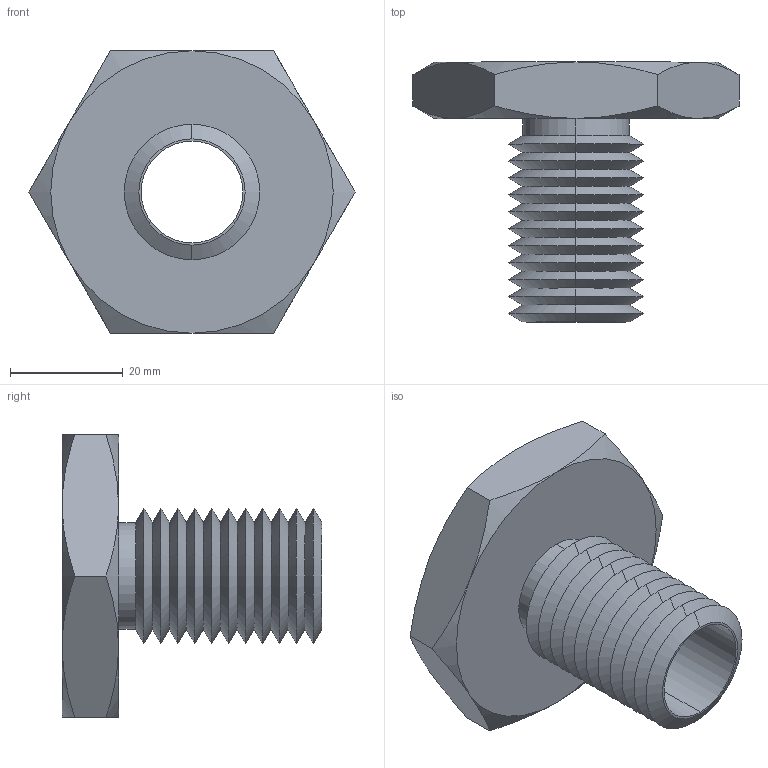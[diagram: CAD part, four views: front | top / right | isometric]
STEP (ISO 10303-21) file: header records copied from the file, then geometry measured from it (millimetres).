
FILE_DESCRIPTION (( 'STEP AP203' ), '1' );
FILE_NAME ('63302.W0024_M18x2,5.step', '2013-12-08T11:03:48', ( 'User' ), ( '' ), 'SwSTEP 2.0', 'SolidWorks 2009', '' );
FILE_SCHEMA (( 'CONFIG_CONTROL_DESIGN' ));
Length unit declared in the file: millimetre
Products named in the file (1): 63302.W0024_M18x2,5
Bounding box: 57.73 x 46 x 50 mm (x, y, z)
Volume: 22243.5 mm3; surface area: 12491.6 mm2
Topology: 1 solids, 1 shells, 71 faces, 146 edges, 78 vertices
Faces by surface type: cone 58, plane 9, cylinder 4
Entity records: 2039 total; most frequent: CARTESIAN_POINT 480, DIRECTION 332, ORIENTED_EDGE 292, EDGE_CURVE 146, AXIS2_PLACEMENT_3D 138, VERTEX_POINT 78, EDGE_LOOP 74, ADVANCED_FACE 71
